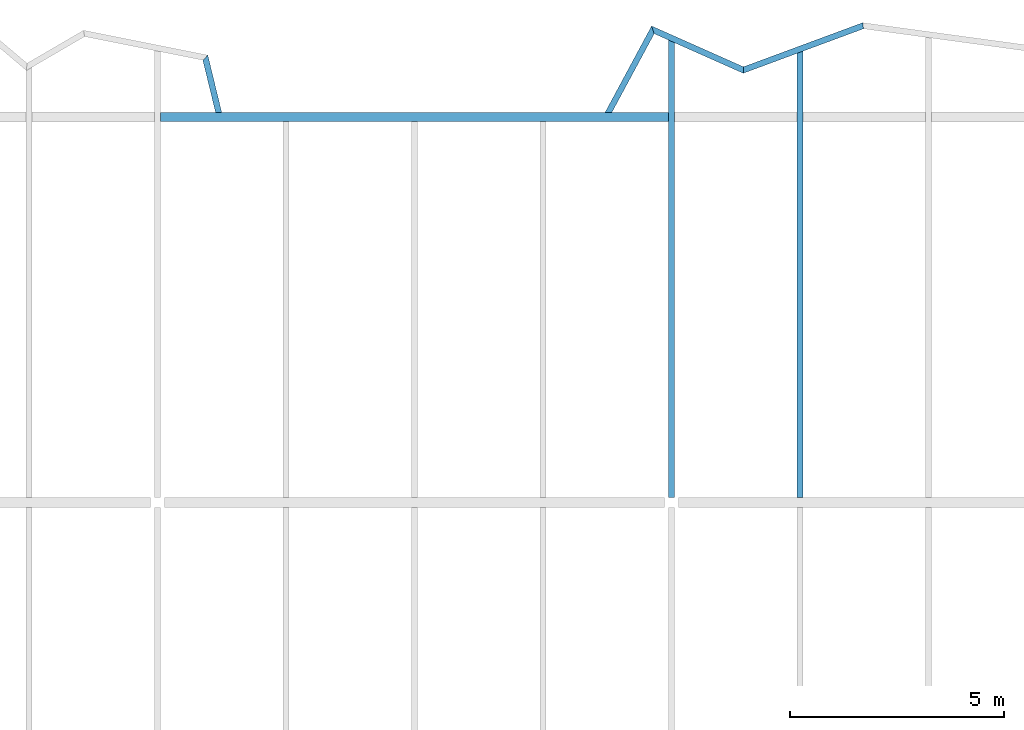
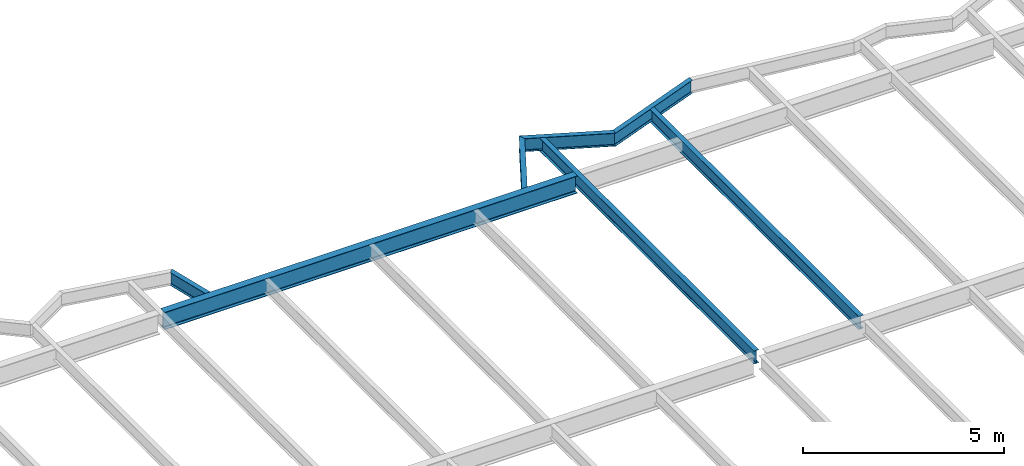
# One storey, part 12 of 26: 7 beams.
"""IFC2X3 building model written with IfcOpenShell, lengths in millimetres."""

from ifc_helpers import new_model, si_unit, origin, place, context, project, spatial, faceted_brep, material, element, save


model = new_model("IFC2X3")

# Units and contexts
context_of_model = context(None, 3, precision=1e-05, world=origin())
ifc_project = project(units=[si_unit("LENGTHUNIT", "METRE", prefix="MILLI")], contexts=[context_of_model])

# Building, storey
building = spatial("IfcBuilding", under=ifc_project, Name="Building", CompositionType="ELEMENT")
storey = spatial("IfcBuildingStorey", under=building, Name="FL4-FRM", CompositionType="ELEMENT")

# Beams
ifc_material_1 = material(Name="A992")
beam_1_placement = place(None, origin())
element("IfcBeam", 1, at=beam_1_placement, inside=storey, material=ifc_material_1, Name="Column353", context=context_of_model, shape_type="Brep", body=[
    faceted_brep([(-35930.0, 35895.5, 12845.0), (-35930.0, 36104.5, 12845.0), (-24070.0, 36104.5, 12845.0), (-24070.0, 35895.5, 12845.0), (-35930.0, 36104.5, 12858.3), (-24070.0, 36104.5, 12858.3), (-35930.0, 36017.4, 12858.3), (-24070.0, 36017.4, 12858.3), (-35930.0, 36014.2, 12858.7), (-24070.0, 36014.2, 12858.7), (-35930.0, 36011.1, 12860.0), (-24070.0, 36011.1, 12860.0), (-35930.0, 36008.5, 12862.0), (-24070.0, 36008.5, 12862.0), (-35930.0, 36006.5, 12864.7), (-24070.0, 36006.5, 12864.7), (-35930.0, 36005.2, 12867.7), (-24070.0, 36005.2, 12867.7), (-35930.0, 36004.8, 12871.0), (-24070.0, 36004.8, 12871.0), (-35930.0, 36004.8, 13347.0), (-24070.0, 36004.8, 13347.0), (-35930.0, 36005.2, 13350.3), (-24070.0, 36005.2, 13350.3), (-35930.0, 36006.5, 13353.3), (-24070.0, 36006.5, 13353.3), (-35930.0, 36008.5, 13356.0), (-24070.0, 36008.5, 13356.0), (-35930.0, 36011.1, 13358.0), (-24070.0, 36011.1, 13358.0), (-35930.0, 36014.2, 13359.3), (-24070.0, 36014.2, 13359.3), (-35930.0, 36017.4, 13359.7), (-24070.0, 36017.4, 13359.7), (-35930.0, 36104.5, 13359.7), (-24070.0, 36104.5, 13359.7), (-35930.0, 36104.5, 13373.0), (-24070.0, 36104.5, 13373.0), (-35930.0, 35895.5, 13373.0), (-24070.0, 35895.5, 13373.0), (-35930.0, 35895.5, 13359.7), (-24070.0, 35895.5, 13359.7), (-35930.0, 35982.6, 13359.7), (-24070.0, 35982.6, 13359.7), (-35930.0, 35985.8, 13359.3), (-24070.0, 35985.8, 13359.3), (-35930.0, 35988.9, 13358.0), (-24070.0, 35988.9, 13358.0), (-35930.0, 35991.5, 13356.0), (-24070.0, 35991.5, 13356.0), (-35930.0, 35993.5, 13353.3), (-24070.0, 35993.5, 13353.3), (-35930.0, 35994.8, 13350.3), (-24070.0, 35994.8, 13350.3), (-35930.0, 35995.3, 13347.0), (-24070.0, 35995.3, 13347.0), (-35930.0, 35995.3, 12871.0), (-24070.0, 35995.3, 12871.0), (-35930.0, 35994.8, 12867.7), (-24070.0, 35994.8, 12867.7), (-35930.0, 35993.5, 12864.7), (-24070.0, 35993.5, 12864.7), (-35930.0, 35991.5, 12862.0), (-24070.0, 35991.5, 12862.0), (-35930.0, 35988.9, 12860.0), (-24070.0, 35988.9, 12860.0), (-35930.0, 35985.8, 12858.7), (-24070.0, 35985.8, 12858.7), (-35930.0, 35982.6, 12858.3), (-24070.0, 35982.6, 12858.3), (-35930.0, 35895.5, 12858.3), (-24070.0, 35895.5, 12858.3)], [[[0, 1, 2, 3]], [[1, 4, 5, 2]], [[4, 6, 7, 5]], [[6, 8, 9, 7]], [[8, 10, 11, 9]], [[10, 12, 13, 11]], [[12, 14, 15, 13]], [[14, 16, 17, 15]], [[16, 18, 19, 17]], [[18, 20, 21, 19]], [[20, 22, 23, 21]], [[22, 24, 25, 23]], [[24, 26, 27, 25]], [[26, 28, 29, 27]], [[28, 30, 31, 29]], [[30, 32, 33, 31]], [[32, 34, 35, 33]], [[34, 36, 37, 35]], [[36, 38, 39, 37]], [[38, 40, 41, 39]], [[40, 42, 43, 41]], [[42, 44, 45, 43]], [[44, 46, 47, 45]], [[46, 48, 49, 47]], [[48, 50, 51, 49]], [[50, 52, 53, 51]], [[52, 54, 55, 53]], [[54, 56, 57, 55]], [[56, 58, 59, 57]], [[58, 60, 61, 59]], [[60, 62, 63, 61]], [[62, 64, 65, 63]], [[64, 66, 67, 65]], [[66, 68, 69, 67]], [[68, 70, 71, 69]], [[70, 0, 3, 71]], [[0, 70, 68, 66, 64, 62, 60, 58, 56, 54, 52, 50, 48, 46, 44, 42, 40, 38, 36, 34, 32, 30, 28, 26, 24, 22, 20, 18, 16, 14, 12, 10, 8, 6, 4, 1]], [[3, 2, 5, 7, 9, 11, 13, 15, 17, 19, 21, 23, 25, 27, 29, 31, 33, 35, 37, 39, 41, 43, 45, 47, 49, 51, 53, 55, 57, 59, 61, 63, 65, 67, 69, 71]]]),
])
ifc_material_2 = material(Name="A992")
beam_2_placement = place(None, origin())
element("IfcBeam", 2, at=beam_2_placement, inside=storey, material=ifc_material_2, Name="B987", context=context_of_model, shape_type="Brep", body=[
    faceted_brep([(-22324.7, 37023.1, 12974.0), (-22319.9, 37174.1, 12974.0), (-19534.6, 38205.7, 12974.0), (-19518.8, 38062.3, 12974.0), (-22319.9, 37174.1, 12982.8), (-19534.6, 38205.7, 12982.8), (-22321.8, 37113.1, 12982.8), (-19528.2, 38147.7, 12982.8), (-22321.9, 37111.5, 12982.9), (-19528.1, 38146.2, 12982.9), (-22321.9, 37110.0, 12983.2), (-19527.9, 38144.8, 12983.2), (-22322.0, 37108.5, 12983.7), (-19527.8, 38143.4, 12983.7), (-22322.0, 37107.1, 12984.4), (-19527.6, 38142.1, 12984.4), (-22322.1, 37105.9, 12985.3), (-19527.5, 38140.9, 12985.3), (-22322.1, 37104.7, 12986.3), (-19527.4, 38139.8, 12986.3), (-22322.1, 37103.8, 12987.5), (-19527.3, 38138.9, 12987.5), (-22322.1, 37103.0, 12988.8), (-19527.2, 38138.2, 12988.8), (-22322.2, 37102.5, 12990.1), (-19527.1, 38137.7, 12990.1), (-22322.2, 37102.2, 12991.5), (-19527.1, 38137.4, 12991.5), (-22322.2, 37102.1, 12993.0), (-19527.1, 38137.3, 12993.0), (-22322.2, 37102.1, 13354.0), (-19527.1, 38137.3, 13354.0), (-22322.2, 37102.2, 13355.5), (-19527.1, 38137.4, 13355.5), (-22322.2, 37102.5, 13356.9), (-19527.1, 38137.7, 13356.9), (-22322.1, 37103.0, 13358.2), (-19527.2, 38138.2, 13358.2), (-22322.1, 37103.8, 13359.5), (-19527.3, 38138.9, 13359.5), (-22322.1, 37104.7, 13360.7), (-19527.4, 38139.8, 13360.7), (-22322.1, 37105.9, 13361.7), (-19527.5, 38140.9, 13361.7), (-22322.0, 37107.1, 13362.6), (-19527.6, 38142.1, 13362.6), (-22322.0, 37108.5, 13363.3), (-19527.8, 38143.4, 13363.3), (-22321.9, 37110.0, 13363.8), (-19527.9, 38144.8, 13363.8), (-22321.9, 37111.5, 13364.1), (-19528.1, 38146.2, 13364.1), (-22321.8, 37113.1, 13364.2), (-19528.2, 38147.7, 13364.2), (-22319.9, 37174.1, 13364.2), (-19534.6, 38205.7, 13364.2), (-22319.9, 37174.1, 13373.0), (-19534.6, 38205.7, 13373.0), (-22324.7, 37023.1, 13373.0), (-19518.8, 38062.3, 13373.0), (-22324.7, 37023.1, 13364.2), (-19518.8, 38062.3, 13364.2), (-22322.7, 37084.1, 13364.2), (-19525.2, 38120.3, 13364.2), (-22322.7, 37085.7, 13364.1), (-19525.4, 38121.7, 13364.1), (-22322.6, 37087.2, 13363.8), (-19525.5, 38123.2, 13363.8), (-22322.6, 37088.7, 13363.3), (-19525.7, 38124.6, 13363.3), (-22322.6, 37090.1, 13362.6), (-19525.8, 38125.9, 13362.6), (-22322.5, 37091.3, 13361.7), (-19526.0, 38127.1, 13361.7), (-22322.5, 37092.4, 13360.7), (-19526.1, 38128.2, 13360.7), (-22322.4, 37093.4, 13359.5), (-19526.2, 38129.1, 13359.5), (-22322.4, 37094.1, 13358.2), (-19526.3, 38129.8, 13358.2), (-22322.4, 37094.7, 13356.9), (-19526.3, 38130.3, 13356.9), (-22322.4, 37095.0, 13355.5), (-19526.3, 38130.6, 13355.5), (-22322.4, 37095.1, 13354.0), (-19526.4, 38130.7, 13354.0), (-22322.4, 37095.1, 12993.0), (-19526.4, 38130.7, 12993.0), (-22322.4, 37095.0, 12991.5), (-19526.3, 38130.6, 12991.5), (-22322.4, 37094.7, 12990.1), (-19526.3, 38130.3, 12990.1), (-22322.4, 37094.1, 12988.8), (-19526.3, 38129.8, 12988.8), (-22322.4, 37093.4, 12987.5), (-19526.2, 38129.1, 12987.5), (-22322.5, 37092.4, 12986.3), (-19526.1, 38128.2, 12986.3), (-22322.5, 37091.3, 12985.3), (-19526.0, 38127.1, 12985.3), (-22322.6, 37090.1, 12984.4), (-19525.8, 38125.9, 12984.4), (-22322.6, 37088.7, 12983.7), (-19525.7, 38124.6, 12983.7), (-22322.6, 37087.2, 12983.2), (-19525.5, 38123.2, 12983.2), (-22322.7, 37085.7, 12982.9), (-19525.4, 38121.7, 12982.9), (-22322.7, 37084.1, 12982.8), (-19525.2, 38120.3, 12982.8), (-22324.7, 37023.1, 12982.8), (-19518.8, 38062.3, 12982.8)], [[[0, 1, 2, 3]], [[1, 4, 5, 2]], [[4, 6, 7, 5]], [[6, 8, 9, 7]], [[8, 10, 11, 9]], [[10, 12, 13, 11]], [[12, 14, 15, 13]], [[14, 16, 17, 15]], [[16, 18, 19, 17]], [[18, 20, 21, 19]], [[20, 22, 23, 21]], [[22, 24, 25, 23]], [[24, 26, 27, 25]], [[26, 28, 29, 27]], [[28, 30, 31, 29]], [[30, 32, 33, 31]], [[32, 34, 35, 33]], [[34, 36, 37, 35]], [[36, 38, 39, 37]], [[38, 40, 41, 39]], [[40, 42, 43, 41]], [[42, 44, 45, 43]], [[44, 46, 47, 45]], [[46, 48, 49, 47]], [[48, 50, 51, 49]], [[50, 52, 53, 51]], [[52, 54, 55, 53]], [[54, 56, 57, 55]], [[56, 58, 59, 57]], [[58, 60, 61, 59]], [[60, 62, 63, 61]], [[62, 64, 65, 63]], [[64, 66, 67, 65]], [[66, 68, 69, 67]], [[68, 70, 71, 69]], [[70, 72, 73, 71]], [[72, 74, 75, 73]], [[74, 76, 77, 75]], [[76, 78, 79, 77]], [[78, 80, 81, 79]], [[80, 82, 83, 81]], [[82, 84, 85, 83]], [[84, 86, 87, 85]], [[86, 88, 89, 87]], [[88, 90, 91, 89]], [[90, 92, 93, 91]], [[92, 94, 95, 93]], [[94, 96, 97, 95]], [[96, 98, 99, 97]], [[98, 100, 101, 99]], [[100, 102, 103, 101]], [[102, 104, 105, 103]], [[104, 106, 107, 105]], [[106, 108, 109, 107]], [[108, 110, 111, 109]], [[110, 0, 3, 111]], [[0, 110, 108, 106, 104, 102, 100, 98, 96, 94, 92, 90, 88, 86, 84, 82, 80, 78, 76, 74, 72, 70, 68, 66, 64, 62, 60, 58, 56, 54, 52, 50, 48, 46, 44, 42, 40, 38, 36, 34, 32, 30, 28, 26, 24, 22, 20, 18, 16, 14, 12, 10, 8, 6, 4, 1]], [[3, 2, 5, 7, 9, 11, 13, 15, 17, 19, 21, 23, 25, 27, 29, 31, 33, 35, 37, 39, 41, 43, 45, 47, 49, 51, 53, 55, 57, 59, 61, 63, 65, 67, 69, 71, 73, 75, 77, 79, 81, 83, 85, 87, 89, 91, 93, 95, 97, 99, 101, 103, 105, 107, 109, 111]]]),
])
ifc_material_3 = material(Name="A992")
beam_3_placement = place(None, origin())
element("IfcBeam", 3, at=beam_3_placement, inside=storey, material=ifc_material_3, Name="B988", context=context_of_model, shape_type="Brep", body=[
    faceted_brep([(-21070.0, 37487.8, 12974.0), (-20930.0, 37539.6, 12974.0), (-20930.0, 27114.5, 12974.0), (-21070.0, 27114.5, 12974.0), (-20930.0, 37539.6, 12982.8), (-20930.0, 27114.5, 12982.8), (-20986.6, 37518.6, 12982.8), (-20986.6, 27114.5, 12982.8), (-20988.0, 37518.1, 12982.9), (-20988.1, 27114.5, 12982.9), (-20989.5, 37517.6, 12983.2), (-20989.5, 27114.5, 12983.2), (-20990.8, 37517.1, 12983.7), (-20990.8, 27114.5, 12983.7), (-20992.1, 37516.6, 12984.4), (-20992.1, 27114.5, 12984.4), (-20993.3, 37516.2, 12985.3), (-20993.3, 27114.5, 12985.3), (-20994.3, 37515.8, 12986.3), (-20994.3, 27114.5, 12986.3), (-20995.2, 37515.5, 12987.5), (-20995.2, 27114.5, 12987.5), (-20995.9, 37515.2, 12988.8), (-20995.9, 27114.5, 12988.8), (-20996.4, 37515.0, 12990.1), (-20996.4, 27114.5, 12990.1), (-20996.7, 37514.9, 12991.5), (-20996.7, 27114.5, 12991.5), (-20996.8, 37514.9, 12993.0), (-20996.8, 27114.5, 12993.0), (-20996.8, 37514.9, 13354.0), (-20996.8, 27114.5, 13354.0), (-20996.7, 37514.9, 13355.5), (-20996.7, 27114.5, 13355.5), (-20996.4, 37515.0, 13356.9), (-20996.4, 27114.5, 13356.9), (-20995.9, 37515.2, 13358.2), (-20995.9, 27114.5, 13358.2), (-20995.2, 37515.5, 13359.5), (-20995.2, 27114.5, 13359.5), (-20994.3, 37515.8, 13360.7), (-20994.3, 27114.5, 13360.7), (-20993.3, 37516.2, 13361.7), (-20993.3, 27114.5, 13361.7), (-20992.1, 37516.6, 13362.6), (-20992.1, 27114.5, 13362.6), (-20990.8, 37517.1, 13363.3), (-20990.8, 27114.5, 13363.3), (-20989.5, 37517.6, 13363.8), (-20989.5, 27114.5, 13363.8), (-20988.0, 37518.1, 13364.1), (-20988.1, 27114.5, 13364.1), (-20986.6, 37518.6, 13364.2), (-20986.6, 27114.5, 13364.2), (-20930.0, 37539.6, 13364.2), (-20930.0, 27114.5, 13364.2), (-20930.0, 37539.6, 13373.0), (-20930.0, 27114.5, 13373.0), (-21070.0, 37487.8, 13373.0), (-21070.0, 27114.5, 13373.0), (-21070.0, 37487.8, 13364.2), (-21070.0, 27114.5, 13364.2), (-21013.4, 37508.7, 13364.2), (-21013.4, 27114.5, 13364.2), (-21012.0, 37509.3, 13364.1), (-21011.9, 27114.5, 13364.1), (-21010.5, 37509.8, 13363.8), (-21010.5, 27114.5, 13363.8), (-21009.2, 37510.3, 13363.3), (-21009.2, 27114.5, 13363.3), (-21007.9, 37510.8, 13362.6), (-21007.9, 27114.5, 13362.6), (-21006.7, 37511.2, 13361.7), (-21006.7, 27114.5, 13361.7), (-21005.7, 37511.6, 13360.7), (-21005.7, 27114.5, 13360.7), (-21004.8, 37511.9, 13359.5), (-21004.8, 27114.5, 13359.5), (-21004.1, 37512.2, 13358.2), (-21004.1, 27114.5, 13358.2), (-21003.6, 37512.3, 13356.9), (-21003.6, 27114.5, 13356.9), (-21003.3, 37512.5, 13355.5), (-21003.3, 27114.5, 13355.5), (-21003.2, 37512.5, 13354.0), (-21003.2, 27114.5, 13354.0), (-21003.2, 37512.5, 12993.0), (-21003.2, 27114.5, 12993.0), (-21003.3, 37512.5, 12991.5), (-21003.3, 27114.5, 12991.5), (-21003.6, 37512.3, 12990.1), (-21003.6, 27114.5, 12990.1), (-21004.1, 37512.2, 12988.8), (-21004.1, 27114.5, 12988.8), (-21004.8, 37511.9, 12987.5), (-21004.8, 27114.5, 12987.5), (-21005.7, 37511.6, 12986.3), (-21005.7, 27114.5, 12986.3), (-21006.7, 37511.2, 12985.3), (-21006.7, 27114.5, 12985.3), (-21007.9, 37510.8, 12984.4), (-21007.9, 27114.5, 12984.4), (-21009.2, 37510.3, 12983.7), (-21009.2, 27114.5, 12983.7), (-21010.5, 37509.8, 12983.2), (-21010.5, 27114.5, 12983.2), (-21012.0, 37509.3, 12982.9), (-21011.9, 27114.5, 12982.9), (-21013.4, 37508.7, 12982.8), (-21013.4, 27114.5, 12982.8), (-21070.0, 37487.8, 12982.8), (-21070.0, 27114.5, 12982.8)], [[[0, 1, 2, 3]], [[1, 4, 5, 2]], [[4, 6, 7, 5]], [[6, 8, 9, 7]], [[8, 10, 11, 9]], [[10, 12, 13, 11]], [[12, 14, 15, 13]], [[14, 16, 17, 15]], [[16, 18, 19, 17]], [[18, 20, 21, 19]], [[20, 22, 23, 21]], [[22, 24, 25, 23]], [[24, 26, 27, 25]], [[26, 28, 29, 27]], [[28, 30, 31, 29]], [[30, 32, 33, 31]], [[32, 34, 35, 33]], [[34, 36, 37, 35]], [[36, 38, 39, 37]], [[38, 40, 41, 39]], [[40, 42, 43, 41]], [[42, 44, 45, 43]], [[44, 46, 47, 45]], [[46, 48, 49, 47]], [[48, 50, 51, 49]], [[50, 52, 53, 51]], [[52, 54, 55, 53]], [[54, 56, 57, 55]], [[56, 58, 59, 57]], [[58, 60, 61, 59]], [[60, 62, 63, 61]], [[62, 64, 65, 63]], [[64, 66, 67, 65]], [[66, 68, 69, 67]], [[68, 70, 71, 69]], [[70, 72, 73, 71]], [[72, 74, 75, 73]], [[74, 76, 77, 75]], [[76, 78, 79, 77]], [[78, 80, 81, 79]], [[80, 82, 83, 81]], [[82, 84, 85, 83]], [[84, 86, 87, 85]], [[86, 88, 89, 87]], [[88, 90, 91, 89]], [[90, 92, 93, 91]], [[92, 94, 95, 93]], [[94, 96, 97, 95]], [[96, 98, 99, 97]], [[98, 100, 101, 99]], [[100, 102, 103, 101]], [[102, 104, 105, 103]], [[104, 106, 107, 105]], [[106, 108, 109, 107]], [[108, 110, 111, 109]], [[110, 0, 3, 111]], [[0, 110, 108, 106, 104, 102, 100, 98, 96, 94, 92, 90, 88, 86, 84, 82, 80, 78, 76, 74, 72, 70, 68, 66, 64, 62, 60, 58, 56, 54, 52, 50, 48, 46, 44, 42, 40, 38, 36, 34, 32, 30, 28, 26, 24, 22, 20, 18, 16, 14, 12, 10, 8, 6, 4, 1]], [[3, 2, 5, 7, 9, 11, 13, 15, 17, 19, 21, 23, 25, 27, 29, 31, 33, 35, 37, 39, 41, 43, 45, 47, 49, 51, 53, 55, 57, 59, 61, 63, 65, 67, 69, 71, 73, 75, 77, 79, 81, 83, 85, 87, 89, 91, 93, 95, 97, 99, 101, 103, 105, 107, 109, 111]]]),
])
ifc_material_4 = material(Name="A992")
beam_4_placement = place(None, origin())
element("IfcBeam", 4, at=beam_4_placement, inside=storey, material=ifc_material_4, Name="B989", context=context_of_model, shape_type="Brep", body=[
    faceted_brep([(-24403.2, 37946.8, 12974.0), (-24464.9, 38127.5, 12974.0), (-22319.9, 37174.1, 12974.0), (-22324.7, 37023.1, 12974.0), (-24464.9, 38127.5, 12982.8), (-22319.9, 37174.1, 12982.8), (-24440.0, 38054.5, 12982.8), (-22321.8, 37113.1, 12982.8), (-24439.3, 38052.4, 12982.9), (-22321.9, 37111.3, 12982.9), (-24438.6, 38050.4, 12983.3), (-22321.9, 37109.7, 12983.3), (-24437.9, 38048.5, 12983.9), (-22322.0, 37108.1, 12983.9), (-24437.3, 38046.8, 12984.7), (-22322.0, 37106.6, 12984.7), (-24436.8, 38045.1, 12985.8), (-22322.1, 37105.3, 12985.8), (-24436.3, 38043.8, 12987.0), (-22322.1, 37104.2, 12987.0), (-24436.0, 38042.7, 12988.3), (-22322.1, 37103.3, 12988.4), (-24435.7, 38042.0, 12989.8), (-22322.2, 37102.6, 12989.8), (-24435.5, 38041.5, 12991.4), (-22322.2, 37102.2, 12991.4), (-24435.5, 38041.3, 12993.0), (-22322.2, 37102.1, 12993.0), (-24435.5, 38041.3, 13354.0), (-22322.2, 37102.1, 13354.0), (-24435.5, 38041.5, 13355.6), (-22322.2, 37102.2, 13355.6), (-24435.7, 38042.0, 13357.2), (-22322.2, 37102.6, 13357.2), (-24436.0, 38042.7, 13358.7), (-22322.1, 37103.3, 13358.6), (-24436.3, 38043.8, 13360.0), (-22322.1, 37104.2, 13360.0), (-24436.8, 38045.1, 13361.2), (-22322.1, 37105.3, 13361.2), (-24437.3, 38046.8, 13362.3), (-22322.0, 37106.6, 13362.3), (-24437.9, 38048.5, 13363.1), (-22322.0, 37108.1, 13363.1), (-24438.6, 38050.4, 13363.7), (-22321.9, 37109.7, 13363.7), (-24439.3, 38052.4, 13364.1), (-22321.9, 37111.3, 13364.1), (-24440.0, 38054.5, 13364.2), (-22321.8, 37113.1, 13364.2), (-24464.9, 38127.5, 13364.2), (-22319.9, 37174.1, 13364.2), (-24464.9, 38127.5, 13373.0), (-22319.9, 37174.1, 13373.0), (-24403.2, 37946.8, 13373.0), (-22324.7, 37023.1, 13373.0), (-24403.2, 37946.8, 13364.2), (-22324.7, 37023.1, 13364.2), (-24428.1, 38019.9, 13364.2), (-22322.7, 37084.1, 13364.2), (-24428.8, 38021.9, 13364.1), (-22322.7, 37085.9, 13364.1), (-24429.5, 38023.9, 13363.7), (-22322.6, 37087.5, 13363.7), (-24430.2, 38025.8, 13363.1), (-22322.6, 37089.1, 13363.1), (-24430.8, 38027.6, 13362.3), (-22322.5, 37090.6, 13362.3), (-24431.3, 38029.2, 13361.2), (-22322.5, 37091.9, 13361.2), (-24431.8, 38030.5, 13360.0), (-22322.5, 37093.0, 13360.0), (-24432.2, 38031.6, 13358.7), (-22322.4, 37093.9, 13358.6), (-24432.4, 38032.4, 13357.2), (-22322.4, 37094.6, 13357.2), (-24432.6, 38032.8, 13355.6), (-22322.4, 37095.0, 13355.6), (-24432.6, 38033.0, 13354.0), (-22322.4, 37095.1, 13354.0), (-24432.6, 38033.0, 12993.0), (-22322.4, 37095.1, 12993.0), (-24432.6, 38032.8, 12991.4), (-22322.4, 37095.0, 12991.4), (-24432.4, 38032.4, 12989.8), (-22322.4, 37094.6, 12989.8), (-24432.2, 38031.6, 12988.3), (-22322.4, 37093.9, 12988.4), (-24431.8, 38030.5, 12987.0), (-22322.5, 37093.0, 12987.0), (-24431.3, 38029.2, 12985.8), (-22322.5, 37091.9, 12985.8), (-24430.8, 38027.6, 12984.7), (-22322.5, 37090.6, 12984.7), (-24430.2, 38025.8, 12983.9), (-22322.6, 37089.1, 12983.9), (-24429.5, 38023.9, 12983.3), (-22322.6, 37087.5, 12983.3), (-24428.8, 38021.9, 12982.9), (-22322.7, 37085.9, 12982.9), (-24428.1, 38019.9, 12982.8), (-22322.7, 37084.1, 12982.8), (-24403.2, 37946.8, 12982.8), (-22324.7, 37023.1, 12982.8)], [[[0, 1, 2, 3]], [[1, 4, 5, 2]], [[4, 6, 7, 5]], [[6, 8, 9, 7]], [[8, 10, 11, 9]], [[10, 12, 13, 11]], [[12, 14, 15, 13]], [[14, 16, 17, 15]], [[16, 18, 19, 17]], [[18, 20, 21, 19]], [[20, 22, 23, 21]], [[22, 24, 25, 23]], [[24, 26, 27, 25]], [[26, 28, 29, 27]], [[28, 30, 31, 29]], [[30, 32, 33, 31]], [[32, 34, 35, 33]], [[34, 36, 37, 35]], [[36, 38, 39, 37]], [[38, 40, 41, 39]], [[40, 42, 43, 41]], [[42, 44, 45, 43]], [[44, 46, 47, 45]], [[46, 48, 49, 47]], [[48, 50, 51, 49]], [[50, 52, 53, 51]], [[52, 54, 55, 53]], [[54, 56, 57, 55]], [[56, 58, 59, 57]], [[58, 60, 61, 59]], [[60, 62, 63, 61]], [[62, 64, 65, 63]], [[64, 66, 67, 65]], [[66, 68, 69, 67]], [[68, 70, 71, 69]], [[70, 72, 73, 71]], [[72, 74, 75, 73]], [[74, 76, 77, 75]], [[76, 78, 79, 77]], [[78, 80, 81, 79]], [[80, 82, 83, 81]], [[82, 84, 85, 83]], [[84, 86, 87, 85]], [[86, 88, 89, 87]], [[88, 90, 91, 89]], [[90, 92, 93, 91]], [[92, 94, 95, 93]], [[94, 96, 97, 95]], [[96, 98, 99, 97]], [[98, 100, 101, 99]], [[100, 102, 103, 101]], [[102, 0, 3, 103]], [[0, 102, 100, 98, 96, 94, 92, 90, 88, 86, 84, 82, 80, 78, 76, 74, 72, 70, 68, 66, 64, 62, 60, 58, 56, 54, 52, 50, 48, 46, 44, 42, 40, 38, 36, 34, 32, 30, 28, 26, 24, 22, 20, 18, 16, 14, 12, 10, 8, 6, 4, 1]], [[3, 2, 5, 7, 9, 11, 13, 15, 17, 19, 21, 23, 25, 27, 29, 31, 33, 35, 37, 39, 41, 43, 45, 47, 49, 51, 53, 55, 57, 59, 61, 63, 65, 67, 69, 71, 73, 75, 77, 79, 81, 83, 85, 87, 89, 91, 93, 95, 97, 99, 101, 103]]]),
])
ifc_material_5 = material(Name="A992")
beam_5_placement = place(None, origin())
element("IfcBeam", 5, at=beam_5_placement, inside=storey, material=ifc_material_5, Name="B990", context=context_of_model, shape_type="Brep", body=[
    faceted_brep([(-24070.0, 37798.8, 12974.0), (-23930.0, 37736.5, 12974.0), (-23930.0, 27114.5, 12974.0), (-24070.0, 27114.5, 12974.0), (-23930.0, 37736.5, 12982.8), (-23930.0, 27114.5, 12982.8), (-23986.6, 37761.7, 12982.8), (-23986.6, 27114.5, 12982.8), (-23988.0, 37762.3, 12982.9), (-23988.1, 27114.5, 12982.9), (-23989.5, 37763.0, 12983.2), (-23989.5, 27114.5, 12983.2), (-23990.8, 37763.6, 12983.7), (-23990.8, 27114.5, 12983.7), (-23992.1, 37764.1, 12984.4), (-23992.1, 27114.5, 12984.4), (-23993.3, 37764.7, 12985.3), (-23993.3, 27114.5, 12985.3), (-23994.3, 37765.1, 12986.3), (-23994.3, 27114.5, 12986.3), (-23995.2, 37765.5, 12987.5), (-23995.2, 27114.5, 12987.5), (-23995.9, 37765.8, 12988.8), (-23995.9, 27114.5, 12988.8), (-23996.4, 37766.0, 12990.1), (-23996.4, 27114.5, 12990.1), (-23996.7, 37766.2, 12991.5), (-23996.7, 27114.5, 12991.5), (-23996.8, 37766.2, 12993.0), (-23996.8, 27114.5, 12993.0), (-23996.8, 37766.2, 13354.0), (-23996.8, 27114.5, 13354.0), (-23996.7, 37766.2, 13355.5), (-23996.7, 27114.5, 13355.5), (-23996.4, 37766.0, 13356.9), (-23996.4, 27114.5, 13356.9), (-23995.9, 37765.8, 13358.2), (-23995.9, 27114.5, 13358.2), (-23995.2, 37765.5, 13359.5), (-23995.2, 27114.5, 13359.5), (-23994.3, 37765.1, 13360.7), (-23994.3, 27114.5, 13360.7), (-23993.3, 37764.7, 13361.7), (-23993.3, 27114.5, 13361.7), (-23992.1, 37764.1, 13362.6), (-23992.1, 27114.5, 13362.6), (-23990.8, 37763.6, 13363.3), (-23990.8, 27114.5, 13363.3), (-23989.5, 37763.0, 13363.8), (-23989.5, 27114.5, 13363.8), (-23988.0, 37762.3, 13364.1), (-23988.1, 27114.5, 13364.1), (-23986.6, 37761.7, 13364.2), (-23986.6, 27114.5, 13364.2), (-23930.0, 37736.5, 13364.2), (-23930.0, 27114.5, 13364.2), (-23930.0, 37736.5, 13373.0), (-23930.0, 27114.5, 13373.0), (-24070.0, 37798.8, 13373.0), (-24070.0, 27114.5, 13373.0), (-24070.0, 37798.8, 13364.2), (-24070.0, 27114.5, 13364.2), (-24013.4, 37773.6, 13364.2), (-24013.4, 27114.5, 13364.2), (-24012.0, 37773.0, 13364.1), (-24011.9, 27114.5, 13364.1), (-24010.5, 37772.3, 13363.8), (-24010.5, 27114.5, 13363.8), (-24009.2, 37771.7, 13363.3), (-24009.2, 27114.5, 13363.3), (-24007.9, 37771.2, 13362.6), (-24007.9, 27114.5, 13362.6), (-24006.7, 37770.6, 13361.7), (-24006.7, 27114.5, 13361.7), (-24005.7, 37770.2, 13360.7), (-24005.7, 27114.5, 13360.7), (-24004.8, 37769.8, 13359.5), (-24004.8, 27114.5, 13359.5), (-24004.1, 37769.5, 13358.2), (-24004.1, 27114.5, 13358.2), (-24003.6, 37769.3, 13356.9), (-24003.6, 27114.5, 13356.9), (-24003.3, 37769.1, 13355.5), (-24003.3, 27114.5, 13355.5), (-24003.2, 37769.1, 13354.0), (-24003.2, 27114.5, 13354.0), (-24003.2, 37769.1, 12993.0), (-24003.2, 27114.5, 12993.0), (-24003.3, 37769.1, 12991.5), (-24003.3, 27114.5, 12991.5), (-24003.6, 37769.3, 12990.1), (-24003.6, 27114.5, 12990.1), (-24004.1, 37769.5, 12988.8), (-24004.1, 27114.5, 12988.8), (-24004.8, 37769.8, 12987.5), (-24004.8, 27114.5, 12987.5), (-24005.7, 37770.2, 12986.3), (-24005.7, 27114.5, 12986.3), (-24006.7, 37770.6, 12985.3), (-24006.7, 27114.5, 12985.3), (-24007.9, 37771.2, 12984.4), (-24007.9, 27114.5, 12984.4), (-24009.2, 37771.7, 12983.7), (-24009.2, 27114.5, 12983.7), (-24010.5, 37772.3, 12983.2), (-24010.5, 27114.5, 12983.2), (-24012.0, 37773.0, 12982.9), (-24011.9, 27114.5, 12982.9), (-24013.4, 37773.6, 12982.8), (-24013.4, 27114.5, 12982.8), (-24070.0, 37798.8, 12982.8), (-24070.0, 27114.5, 12982.8)], [[[0, 1, 2, 3]], [[1, 4, 5, 2]], [[4, 6, 7, 5]], [[6, 8, 9, 7]], [[8, 10, 11, 9]], [[10, 12, 13, 11]], [[12, 14, 15, 13]], [[14, 16, 17, 15]], [[16, 18, 19, 17]], [[18, 20, 21, 19]], [[20, 22, 23, 21]], [[22, 24, 25, 23]], [[24, 26, 27, 25]], [[26, 28, 29, 27]], [[28, 30, 31, 29]], [[30, 32, 33, 31]], [[32, 34, 35, 33]], [[34, 36, 37, 35]], [[36, 38, 39, 37]], [[38, 40, 41, 39]], [[40, 42, 43, 41]], [[42, 44, 45, 43]], [[44, 46, 47, 45]], [[46, 48, 49, 47]], [[48, 50, 51, 49]], [[50, 52, 53, 51]], [[52, 54, 55, 53]], [[54, 56, 57, 55]], [[56, 58, 59, 57]], [[58, 60, 61, 59]], [[60, 62, 63, 61]], [[62, 64, 65, 63]], [[64, 66, 67, 65]], [[66, 68, 69, 67]], [[68, 70, 71, 69]], [[70, 72, 73, 71]], [[72, 74, 75, 73]], [[74, 76, 77, 75]], [[76, 78, 79, 77]], [[78, 80, 81, 79]], [[80, 82, 83, 81]], [[82, 84, 85, 83]], [[84, 86, 87, 85]], [[86, 88, 89, 87]], [[88, 90, 91, 89]], [[90, 92, 93, 91]], [[92, 94, 95, 93]], [[94, 96, 97, 95]], [[96, 98, 99, 97]], [[98, 100, 101, 99]], [[100, 102, 103, 101]], [[102, 104, 105, 103]], [[104, 106, 107, 105]], [[106, 108, 109, 107]], [[108, 110, 111, 109]], [[110, 0, 3, 111]], [[0, 110, 108, 106, 104, 102, 100, 98, 96, 94, 92, 90, 88, 86, 84, 82, 80, 78, 76, 74, 72, 70, 68, 66, 64, 62, 60, 58, 56, 54, 52, 50, 48, 46, 44, 42, 40, 38, 36, 34, 32, 30, 28, 26, 24, 22, 20, 18, 16, 14, 12, 10, 8, 6, 4, 1]], [[3, 2, 5, 7, 9, 11, 13, 15, 17, 19, 21, 23, 25, 27, 29, 31, 33, 35, 37, 39, 41, 43, 45, 47, 49, 51, 53, 55, 57, 59, 61, 63, 65, 67, 69, 71, 73, 75, 77, 79, 81, 83, 85, 87, 89, 91, 93, 95, 97, 99, 101, 103, 105, 107, 109, 111]]]),
])
ifc_material_6 = material(Name="A992")
beam_6_placement = place(None, origin())
element("IfcBeam", 6, at=beam_6_placement, inside=storey, material=ifc_material_6, Name="B991", context=context_of_model, shape_type="Brep", body=[
    faceted_brep([(-25395.2, 36104.5, 12974.0), (-25554.2, 36104.5, 12974.0), (-24464.9, 38127.5, 12974.0), (-24403.2, 37946.8, 12974.0), (-25554.2, 36104.5, 12982.8), (-24464.9, 38127.5, 12982.8), (-25489.9, 36104.5, 12982.8), (-24440.0, 38054.5, 12982.8), (-25488.1, 36104.5, 12982.9), (-24439.3, 38052.4, 12982.9), (-25486.4, 36104.5, 12983.3), (-24438.6, 38050.4, 12983.3), (-25484.7, 36104.5, 12983.9), (-24437.9, 38048.5, 12983.9), (-25483.1, 36104.5, 12984.7), (-24437.3, 38046.8, 12984.7), (-25481.7, 36104.5, 12985.8), (-24436.8, 38045.1, 12985.8), (-25480.6, 36104.5, 12987.0), (-24436.3, 38043.8, 12987.0), (-25479.6, 36104.5, 12988.4), (-24436.0, 38042.7, 12988.3), (-25478.9, 36104.5, 12989.8), (-24435.7, 38042.0, 12989.8), (-25478.5, 36104.5, 12991.4), (-24435.5, 38041.5, 12991.4), (-25478.4, 36104.5, 12993.0), (-24435.5, 38041.3, 12993.0), (-25478.4, 36104.5, 13354.0), (-24435.5, 38041.3, 13354.0), (-25478.5, 36104.5, 13355.6), (-24435.5, 38041.5, 13355.6), (-25478.9, 36104.5, 13357.2), (-24435.7, 38042.0, 13357.2), (-25479.6, 36104.5, 13358.6), (-24436.0, 38042.7, 13358.7), (-25480.6, 36104.5, 13360.0), (-24436.3, 38043.8, 13360.0), (-25481.7, 36104.5, 13361.2), (-24436.8, 38045.1, 13361.2), (-25483.1, 36104.5, 13362.3), (-24437.3, 38046.8, 13362.3), (-25484.7, 36104.5, 13363.1), (-24437.9, 38048.5, 13363.1), (-25486.4, 36104.5, 13363.7), (-24438.6, 38050.4, 13363.7), (-25488.1, 36104.5, 13364.1), (-24439.3, 38052.4, 13364.1), (-25489.9, 36104.5, 13364.2), (-24440.0, 38054.5, 13364.2), (-25554.2, 36104.5, 13364.2), (-24464.9, 38127.5, 13364.2), (-25554.2, 36104.5, 13373.0), (-24464.9, 38127.5, 13373.0), (-25395.2, 36104.5, 13373.0), (-24403.2, 37946.8, 13373.0), (-25395.2, 36104.5, 13364.2), (-24403.2, 37946.8, 13364.2), (-25459.5, 36104.5, 13364.2), (-24428.1, 38019.9, 13364.2), (-25461.3, 36104.5, 13364.1), (-24428.8, 38021.9, 13364.1), (-25463.1, 36104.5, 13363.7), (-24429.5, 38023.9, 13363.7), (-25464.7, 36104.5, 13363.1), (-24430.2, 38025.8, 13363.1), (-25466.3, 36104.5, 13362.3), (-24430.8, 38027.6, 13362.3), (-25467.7, 36104.5, 13361.2), (-24431.3, 38029.2, 13361.2), (-25468.9, 36104.5, 13360.0), (-24431.8, 38030.5, 13360.0), (-25469.8, 36104.5, 13358.6), (-24432.2, 38031.6, 13358.7), (-25470.5, 36104.5, 13357.2), (-24432.4, 38032.4, 13357.2), (-25470.9, 36104.5, 13355.6), (-24432.6, 38032.8, 13355.6), (-25471.1, 36104.5, 13354.0), (-24432.6, 38033.0, 13354.0), (-25471.1, 36104.5, 12993.0), (-24432.6, 38033.0, 12993.0), (-25470.9, 36104.5, 12991.4), (-24432.6, 38032.8, 12991.4), (-25470.5, 36104.5, 12989.8), (-24432.4, 38032.4, 12989.8), (-25469.8, 36104.5, 12988.4), (-24432.2, 38031.6, 12988.3), (-25468.9, 36104.5, 12987.0), (-24431.8, 38030.5, 12987.0), (-25467.7, 36104.5, 12985.8), (-24431.3, 38029.2, 12985.8), (-25466.3, 36104.5, 12984.7), (-24430.8, 38027.6, 12984.7), (-25464.7, 36104.5, 12983.9), (-24430.2, 38025.8, 12983.9), (-25463.1, 36104.5, 12983.3), (-24429.5, 38023.9, 12983.3), (-25461.3, 36104.5, 12982.9), (-24428.8, 38021.9, 12982.9), (-25459.5, 36104.5, 12982.8), (-24428.1, 38019.9, 12982.8), (-25395.2, 36104.5, 12982.8), (-24403.2, 37946.8, 12982.8)], [[[0, 1, 2, 3]], [[1, 4, 5, 2]], [[4, 6, 7, 5]], [[6, 8, 9, 7]], [[8, 10, 11, 9]], [[10, 12, 13, 11]], [[12, 14, 15, 13]], [[14, 16, 17, 15]], [[16, 18, 19, 17]], [[18, 20, 21, 19]], [[20, 22, 23, 21]], [[22, 24, 25, 23]], [[24, 26, 27, 25]], [[26, 28, 29, 27]], [[28, 30, 31, 29]], [[30, 32, 33, 31]], [[32, 34, 35, 33]], [[34, 36, 37, 35]], [[36, 38, 39, 37]], [[38, 40, 41, 39]], [[40, 42, 43, 41]], [[42, 44, 45, 43]], [[44, 46, 47, 45]], [[46, 48, 49, 47]], [[48, 50, 51, 49]], [[50, 52, 53, 51]], [[52, 54, 55, 53]], [[54, 56, 57, 55]], [[56, 58, 59, 57]], [[58, 60, 61, 59]], [[60, 62, 63, 61]], [[62, 64, 65, 63]], [[64, 66, 67, 65]], [[66, 68, 69, 67]], [[68, 70, 71, 69]], [[70, 72, 73, 71]], [[72, 74, 75, 73]], [[74, 76, 77, 75]], [[76, 78, 79, 77]], [[78, 80, 81, 79]], [[80, 82, 83, 81]], [[82, 84, 85, 83]], [[84, 86, 87, 85]], [[86, 88, 89, 87]], [[88, 90, 91, 89]], [[90, 92, 93, 91]], [[92, 94, 95, 93]], [[94, 96, 97, 95]], [[96, 98, 99, 97]], [[98, 100, 101, 99]], [[100, 102, 103, 101]], [[102, 0, 3, 103]], [[0, 102, 100, 98, 96, 94, 92, 90, 88, 86, 84, 82, 80, 78, 76, 74, 72, 70, 68, 66, 64, 62, 60, 58, 56, 54, 52, 50, 48, 46, 44, 42, 40, 38, 36, 34, 32, 30, 28, 26, 24, 22, 20, 18, 16, 14, 12, 10, 8, 6, 4, 1]], [[3, 2, 5, 7, 9, 11, 13, 15, 17, 19, 21, 23, 25, 27, 29, 31, 33, 35, 37, 39, 41, 43, 45, 47, 49, 51, 53, 55, 57, 59, 61, 63, 65, 67, 69, 71, 73, 75, 77, 79, 81, 83, 85, 87, 89, 91, 93, 95, 97, 99, 101, 103]]]),
])
ifc_material_7 = material(Name="A992")
beam_7_placement = place(None, origin())
element("IfcBeam", 7, at=beam_7_placement, inside=storey, material=ifc_material_7, Name="B992", context=context_of_model, shape_type="Brep", body=[
    faceted_brep([(-34942.2, 37327.2, 12974.0), (-34827.2, 37446.9, 12974.0), (-34500.7, 36104.5, 12974.0), (-34644.8, 36104.5, 12974.0), (-34827.2, 37446.9, 12982.8), (-34500.7, 36104.5, 12982.8), (-34873.7, 37398.5, 12982.8), (-34559.0, 36104.5, 12982.8), (-34874.9, 37397.3, 12982.9), (-34560.5, 36104.5, 12982.9), (-34876.1, 37396.1, 12983.2), (-34561.9, 36104.5, 12983.2), (-34877.2, 37394.9, 12983.7), (-34563.3, 36104.5, 12983.7), (-34878.2, 37393.8, 12984.4), (-34564.6, 36104.5, 12984.4), (-34879.2, 37392.8, 12985.3), (-34565.8, 36104.5, 12985.3), (-34880.0, 37391.9, 12986.3), (-34566.9, 36104.5, 12986.3), (-34880.8, 37391.2, 12987.5), (-34567.8, 36104.5, 12987.5), (-34881.3, 37390.6, 12988.8), (-34568.5, 36104.5, 12988.8), (-34881.7, 37390.1, 12990.1), (-34569.0, 36104.5, 12990.1), (-34882.0, 37389.9, 12991.5), (-34569.3, 36104.5, 12991.5), (-34882.1, 37389.8, 12993.0), (-34569.5, 36104.5, 12993.0), (-34882.1, 37389.8, 13354.0), (-34569.5, 36104.5, 13354.0), (-34882.0, 37389.9, 13355.5), (-34569.3, 36104.5, 13355.5), (-34881.7, 37390.1, 13356.9), (-34569.0, 36104.5, 13356.9), (-34881.3, 37390.6, 13358.2), (-34568.5, 36104.5, 13358.2), (-34880.8, 37391.2, 13359.5), (-34567.8, 36104.5, 13359.5), (-34880.0, 37391.9, 13360.7), (-34566.9, 36104.5, 13360.7), (-34879.2, 37392.8, 13361.7), (-34565.8, 36104.5, 13361.7), (-34878.2, 37393.8, 13362.6), (-34564.6, 36104.5, 13362.6), (-34877.2, 37394.9, 13363.3), (-34563.3, 36104.5, 13363.3), (-34876.1, 37396.1, 13363.8), (-34561.9, 36104.5, 13363.8), (-34874.9, 37397.3, 13364.1), (-34560.5, 36104.5, 13364.1), (-34873.7, 37398.5, 13364.2), (-34559.0, 36104.5, 13364.2), (-34827.2, 37446.9, 13364.2), (-34500.7, 36104.5, 13364.2), (-34827.2, 37446.9, 13373.0), (-34500.7, 36104.5, 13373.0), (-34942.2, 37327.2, 13373.0), (-34644.8, 36104.5, 13373.0), (-34942.2, 37327.2, 13364.2), (-34644.8, 36104.5, 13364.2), (-34895.7, 37375.6, 13364.2), (-34586.5, 36104.5, 13364.2), (-34894.5, 37376.8, 13364.1), (-34585.0, 36104.5, 13364.1), (-34893.4, 37378.0, 13363.8), (-34583.6, 36104.5, 13363.8), (-34892.2, 37379.2, 13363.3), (-34582.2, 36104.5, 13363.3), (-34891.2, 37380.3, 13362.6), (-34580.9, 36104.5, 13362.6), (-34890.2, 37381.3, 13361.7), (-34579.7, 36104.5, 13361.7), (-34889.4, 37382.2, 13360.7), (-34578.6, 36104.5, 13360.7), (-34888.7, 37382.9, 13359.5), (-34577.7, 36104.5, 13359.5), (-34888.1, 37383.5, 13358.2), (-34577.0, 36104.5, 13358.2), (-34887.7, 37383.9, 13356.9), (-34576.5, 36104.5, 13356.9), (-34887.4, 37384.2, 13355.5), (-34576.2, 36104.5, 13355.5), (-34887.3, 37384.3, 13354.0), (-34576.0, 36104.5, 13354.0), (-34887.3, 37384.3, 12993.0), (-34576.0, 36104.5, 12993.0), (-34887.4, 37384.2, 12991.5), (-34576.2, 36104.5, 12991.5), (-34887.7, 37383.9, 12990.1), (-34576.5, 36104.5, 12990.1), (-34888.1, 37383.5, 12988.8), (-34577.0, 36104.5, 12988.8), (-34888.7, 37382.9, 12987.5), (-34577.7, 36104.5, 12987.5), (-34889.4, 37382.2, 12986.3), (-34578.6, 36104.5, 12986.3), (-34890.2, 37381.3, 12985.3), (-34579.7, 36104.5, 12985.3), (-34891.2, 37380.3, 12984.4), (-34580.9, 36104.5, 12984.4), (-34892.2, 37379.2, 12983.7), (-34582.2, 36104.5, 12983.7), (-34893.4, 37378.0, 12983.2), (-34583.6, 36104.5, 12983.2), (-34894.5, 37376.8, 12982.9), (-34585.0, 36104.5, 12982.9), (-34895.7, 37375.6, 12982.8), (-34586.5, 36104.5, 12982.8), (-34942.2, 37327.2, 12982.8), (-34644.8, 36104.5, 12982.8)], [[[0, 1, 2, 3]], [[1, 4, 5, 2]], [[4, 6, 7, 5]], [[6, 8, 9, 7]], [[8, 10, 11, 9]], [[10, 12, 13, 11]], [[12, 14, 15, 13]], [[14, 16, 17, 15]], [[16, 18, 19, 17]], [[18, 20, 21, 19]], [[20, 22, 23, 21]], [[22, 24, 25, 23]], [[24, 26, 27, 25]], [[26, 28, 29, 27]], [[28, 30, 31, 29]], [[30, 32, 33, 31]], [[32, 34, 35, 33]], [[34, 36, 37, 35]], [[36, 38, 39, 37]], [[38, 40, 41, 39]], [[40, 42, 43, 41]], [[42, 44, 45, 43]], [[44, 46, 47, 45]], [[46, 48, 49, 47]], [[48, 50, 51, 49]], [[50, 52, 53, 51]], [[52, 54, 55, 53]], [[54, 56, 57, 55]], [[56, 58, 59, 57]], [[58, 60, 61, 59]], [[60, 62, 63, 61]], [[62, 64, 65, 63]], [[64, 66, 67, 65]], [[66, 68, 69, 67]], [[68, 70, 71, 69]], [[70, 72, 73, 71]], [[72, 74, 75, 73]], [[74, 76, 77, 75]], [[76, 78, 79, 77]], [[78, 80, 81, 79]], [[80, 82, 83, 81]], [[82, 84, 85, 83]], [[84, 86, 87, 85]], [[86, 88, 89, 87]], [[88, 90, 91, 89]], [[90, 92, 93, 91]], [[92, 94, 95, 93]], [[94, 96, 97, 95]], [[96, 98, 99, 97]], [[98, 100, 101, 99]], [[100, 102, 103, 101]], [[102, 104, 105, 103]], [[104, 106, 107, 105]], [[106, 108, 109, 107]], [[108, 110, 111, 109]], [[110, 0, 3, 111]], [[0, 110, 108, 106, 104, 102, 100, 98, 96, 94, 92, 90, 88, 86, 84, 82, 80, 78, 76, 74, 72, 70, 68, 66, 64, 62, 60, 58, 56, 54, 52, 50, 48, 46, 44, 42, 40, 38, 36, 34, 32, 30, 28, 26, 24, 22, 20, 18, 16, 14, 12, 10, 8, 6, 4, 1]], [[3, 2, 5, 7, 9, 11, 13, 15, 17, 19, 21, 23, 25, 27, 29, 31, 33, 35, 37, 39, 41, 43, 45, 47, 49, 51, 53, 55, 57, 59, 61, 63, 65, 67, 69, 71, 73, 75, 77, 79, 81, 83, 85, 87, 89, 91, 93, 95, 97, 99, 101, 103, 105, 107, 109, 111]]]),
])

save(model, "model.ifc")
